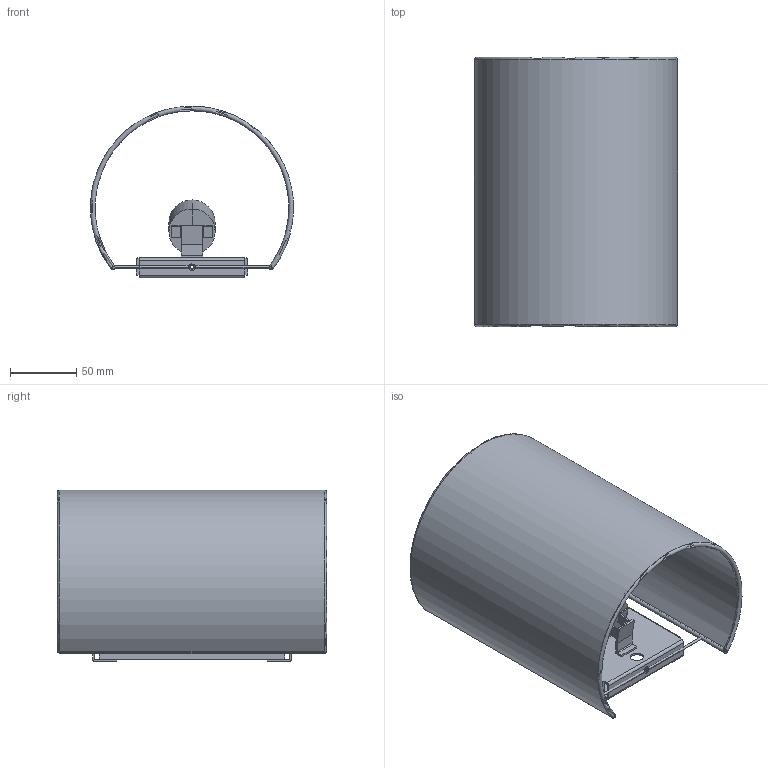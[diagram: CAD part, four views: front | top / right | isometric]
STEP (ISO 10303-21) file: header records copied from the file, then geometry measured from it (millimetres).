
FILE_DESCRIPTION(/* description */ (''),/* implementation_level */ '2;1');
FILE_NAME(/* name */ 'C:\Users\FrancoSartori\Documents\FARO\01_En Proceso\0000_2023\00_COTTON-OTTON\03_Publicación\66407, 66408.stp',/* time_stamp */ '2022-09-29T15:35:14+02:00',/* author */ ('FrancoSartori'),/* organization */ (''),/* preprocessor_version */ 'ST-DEVELOPER v19.2',/* originating_system */ 'AutoCAD Mechanical',/* authorisation */ '');
FILE_SCHEMA (('AUTOMOTIVE_DESIGN { 1 0 10303 214 3 1 1 }'));
Length unit declared in the file: millimetre
Products named in the file (3): Product; 66400_66401 - structure-588819-Export; 66407_ 66408_ 66409_ 66410_ - shade-588823-Export
Assembly tree (2 placements, depth 2):
  Product
    66400_66401 - structure-588819-Export
    66407_ 66408_ 66409_ 66410_ - shade-588823-Export
Bounding box: 153.49 x 203.6 x 129.74 mm (x, y, z)
Volume: 106329.5 mm3; surface area: 213848.6 mm2
Topology: 13 solids, 21 shells, 162 faces, 416 edges, 270 vertices
Faces by surface type: plane 78, cylinder 66, torus 8, sphere 8, cone 2
Entity records: 6890 total; most frequent: CARTESIAN_POINT 2812, DIRECTION 851, ORIENTED_EDGE 784, EDGE_CURVE 408, AXIS2_PLACEMENT_3D 309, VERTEX_POINT 270, LINE 233, VECTOR 233
